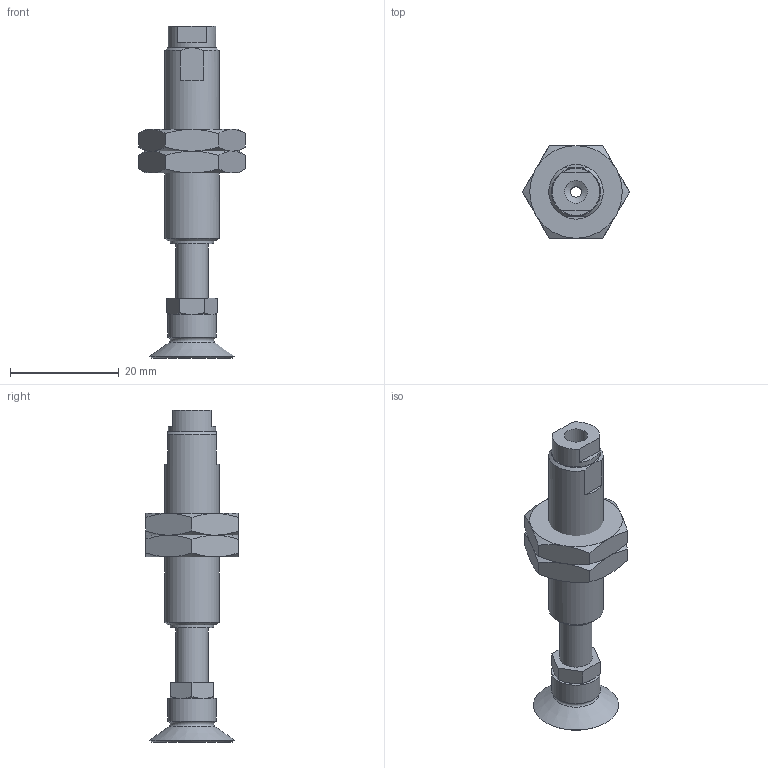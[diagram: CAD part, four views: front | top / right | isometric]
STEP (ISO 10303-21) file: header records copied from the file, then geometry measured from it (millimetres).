
FILE_DESCRIPTION(('STEP AP203'),'1');
FILE_NAME('-LB.stp','2025-04-10T08:36:27',(' '),(' '),'Spatial InterOp 3D',' ',' ');
FILE_SCHEMA(('CONFIG_CONTROL_DESIGN'));
Length unit declared in the file: millimetre
Products named in the file (8): BNABPFTH-15A-10-※-LB; __; BODY; NUT; TN-PS-10-M5; Setting screws-TN-PS-10-M5; BPFG-15A-※
Assembly tree (7 placements, depth 3):
  BNABPFTH-15A-10-※-LB
    __
    BODY
    NUT
    NUT
    TN-PS-10-M5
      Setting screws-TN-PS-10-M5
    BPFG-15A-※
Bounding box: 19.63 x 17 x 61 mm (x, y, z)
Volume: 5158 mm3; surface area: 4520 mm2
Topology: 6 solids, 6 shells, 126 faces, 266 edges, 160 vertices
Faces by surface type: plane 58, cone 41, cylinder 18, torus 8, bspline 1
Full cylindrical faces by diameter (mm): 2 x3, 3.9 x1, 4 x2, 4.2 x2, 5 x1, 6 x3, 8 x1, 8.7 x1, 9 x3, 10 x1
Entity records: 3637 total; most frequent: CARTESIAN_POINT 768, DIRECTION 522, ORIENTED_EDGE 444, AXIS2_PLACEMENT_3D 230, EDGE_CURVE 222, EDGE_LOOP 182, FACE_OUTER_BOUND 153, VERTEX_POINT 152
